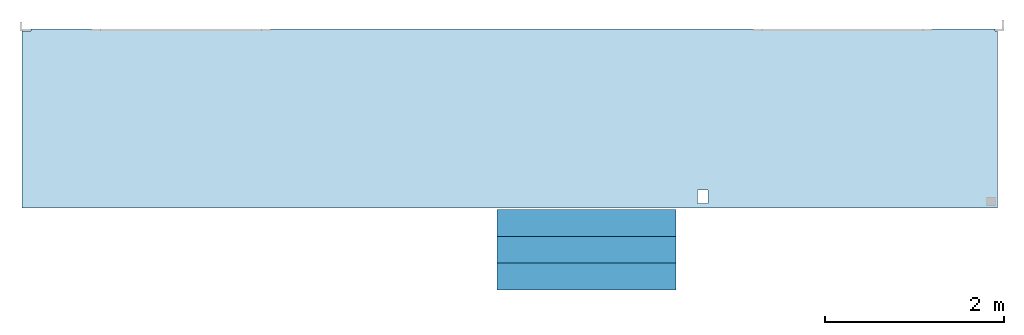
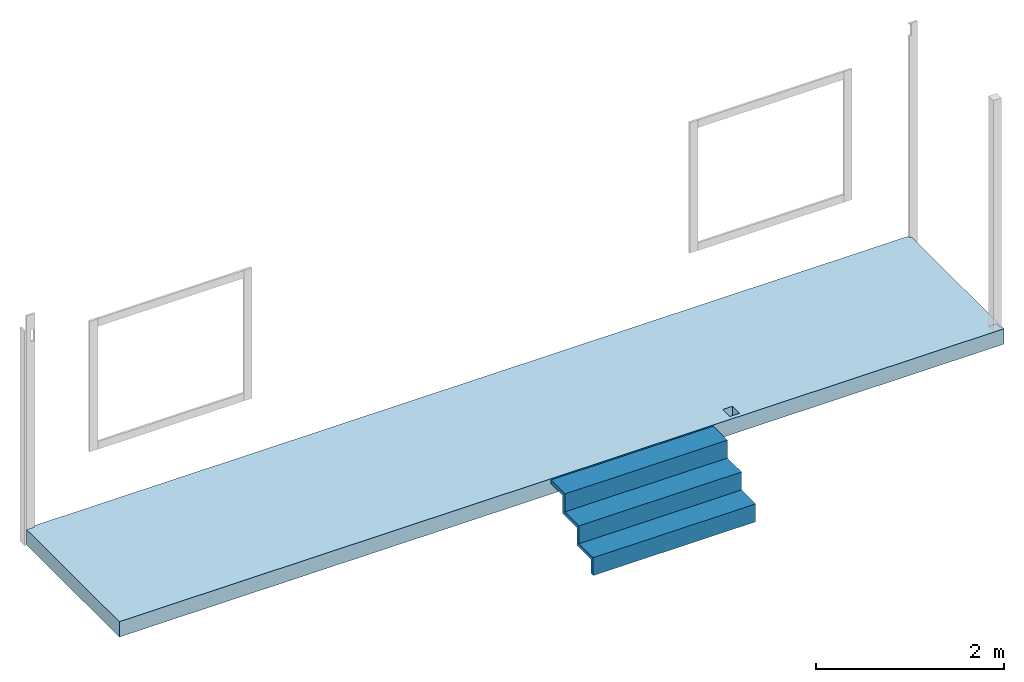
# One storey, part 2 of 2: 1 slab, 1 stair flight.
"""IFC4 building model written with IfcOpenShell, lengths in millimetres."""

from ifc_helpers import new_model, si_unit, derived_unit, frame, origin_with_axes, place, context, subcontext, project, spatial, polygons, source, transform, mapped, element, save


model = new_model("IFC4")

# Units and contexts
model_context = context("Model", 3, precision=1e-06, world=origin_with_axes())
body_context = subcontext(model_context, "Body", "Model", "MODEL_VIEW")
ifc_project = project(units=[si_unit("LENGTHUNIT", "METRE", prefix="MILLI"), si_unit("AREAUNIT", "SQUARE_METRE"), si_unit("VOLUMEUNIT", "CUBIC_METRE"), si_unit("MASSUNIT", "GRAM", prefix="KILO"), si_unit("ELECTRICVOLTAGEUNIT", "VOLT", prefix="KILO"), si_unit("THERMODYNAMICTEMPERATUREUNIT", "DEGREE_CELSIUS"), si_unit("PRESSUREUNIT", "PASCAL", prefix="MEGA"), si_unit("PLANEANGLEUNIT", "RADIAN"), derived_unit("THERMALCONDUCTANCEUNIT", [(si_unit("POWERUNIT", "WATT"), 1), (si_unit("LENGTHUNIT", "METRE"), -1), (si_unit("THERMODYNAMICTEMPERATUREUNIT", "KELVIN"), -1)]), derived_unit("MASSDENSITYUNIT", [(si_unit("MASSUNIT", "GRAM", prefix="KILO"), 1), (si_unit("VOLUMEUNIT", "CUBIC_METRE"), -1)])], contexts=[model_context])

# Site, building, storey
site_placement = place(None, origin_with_axes())
site = spatial("IfcSite", under=ifc_project, at=site_placement, CompositionType="ELEMENT")
building_placement = place(site_placement, origin_with_axes())
building = spatial("IfcBuilding", under=site, at=building_placement, CompositionType="ELEMENT")
storey_placement = place(building_placement, origin_with_axes())
storey = spatial("IfcBuildingStorey", under=building, at=storey_placement, Name="Фасады", CompositionType="ELEMENT", Elevation=0.0)

# Slab
shared_shape_1 = source(origin_with_axes(), body_context, "Body", "Tessellation", [
    polygons([(-49.99999999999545, -75.00000000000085, -200.0), (50.00000000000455, -75.00000000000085, -200.0), (50.00000000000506, -50.000000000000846, -200.0), (10819.999999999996, -49.99999999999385, -200.0), (10819.999999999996, -75.00000000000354, -200.0), (10845.000000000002, -75.00000000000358, -200.0), (10845.000000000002, -2049.9999999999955, -200.0), (-49.99999999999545, -2050.0000000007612, -200.0), (7615.0000000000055, -1850.0000000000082, -200.0), (7495.0000000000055, -1850.0000000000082, -200.0), (7495.0000000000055, -2000.0000000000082, -200.0), (7615.0000000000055, -2000.0000000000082, -200.0), (50.00000000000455, -75.00000000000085, 0.0), (-49.99999999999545, -75.00000000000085, 0.0), (-49.99999999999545, -2050.0000000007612, 0.0), (10845.000000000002, -2049.9999999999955, 0.0), (10845.000000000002, -75.00000000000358, 0.0), (10819.999999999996, -75.00000000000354, -2.8e-14), (10819.999999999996, -49.99999999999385, 0.0), (50.00000000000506, -50.000000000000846, 0.0), (10724.999999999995, -2029.9999999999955, 0.0), (10724.999999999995, -1929.9999999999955, 0.0), (10824.999999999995, -1929.9999999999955, 0.0), (10824.999999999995, -2029.9999999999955, 0.0), (7495.0000000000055, -1850.0000000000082, 0.0), (7615.0000000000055, -1850.0000000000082, 0.0), (7615.0000000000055, -2000.0000000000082, 0.0), (7495.0000000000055, -2000.0000000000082, 0.0), (10824.999999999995, -2029.9999999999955, -1.0), (10724.999999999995, -2029.9999999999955, -1.0), (10824.999999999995, -1929.9999999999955, -1.0), (10724.999999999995, -1929.9999999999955, -1.0)], [[[1, 2, 3, 4, 5, 6, 7, 8], [9, 10, 11, 12]], [[13, 14, 15, 16, 17, 18, 19, 20], [21, 22, 23, 24], [25, 26, 27, 28]], [[3, 20, 19, 4]], [[6, 17, 16, 7]], [[14, 1, 8, 15]], [[4, 19, 18, 5]], [[17, 6, 5, 18]], [[20, 3, 2, 13]], [[1, 14, 13, 2]], [[27, 26, 9, 12]], [[25, 28, 11, 10]], [[28, 27, 12, 11]], [[26, 25, 10, 9]], [[21, 24, 29, 30]], [[24, 23, 31, 29]], [[23, 22, 32, 31]], [[22, 21, 30, 32]], [[8, 7, 16, 15]], [[30, 29, 31, 32]]], closed=True),
])
slab_placement = place(storey_placement, frame((-49.99999999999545, -50.00000000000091, -200.0), z_axis=(0.0, 0.0, 1.0), x_axis=(0.0, -1.0, 0.0)))
element("IfcSlab", 1, at=slab_placement, inside=storey, Name="Перекрытие: 200,00 мм", PredefinedType="FLOOR", context=body_context, shape_type="MappedRepresentation", body=[
    mapped(shared_shape_1, transform((-50.00000000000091, 49.99999999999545, 200.0), x_axis=(0.0, 1.0, 0.0), y_axis=(-1.0, 0.0, 0.0), z_axis=(0.0, 0.0, 1.0), scale=1.0)),
])

# Stair flight
shared_shape_2 = source(origin_with_axes(), body_context, "Body", "Tessellation", [
    polygons([(1000.0000000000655, -133.87066185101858, 183.33333333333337), (1000.0000000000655, 166.12933814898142, 183.33333333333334), (1000.0000000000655, 166.12933814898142, 416.66666666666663), (1000.0000000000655, 466.12933814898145, 416.6666666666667), (1000.0000000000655, 466.12933814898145, 650.0), (1000.0000000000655, 716.1293381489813, 650.0), (1000.0000000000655, 716.1293381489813, 700.0), (1000.0000000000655, 416.12933814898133, 700.0), (1000.0000000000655, 416.12933814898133, 466.66666666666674), (1000.0000000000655, 116.12933814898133, 466.6666666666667), (1000.0000000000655, 116.12933814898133, 233.33333333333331), (1000.0000000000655, -183.87066185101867, 233.33333333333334), (1000.0000000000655, -183.87066185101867, 0.0), (1000.0000000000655, -133.87066185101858, 0.0), (-999.9999999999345, 166.12933814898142, 183.33333333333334), (-999.9999999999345, -133.87066185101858, 183.33333333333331), (-999.9999999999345, -133.87066185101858, 0.0), (-999.9999999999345, -183.87066185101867, 0.0), (-999.9999999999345, -183.87066185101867, 233.33333333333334), (-999.9999999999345, 116.1293381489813, 233.33333333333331), (-999.9999999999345, 116.12933814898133, 466.6666666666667), (-999.9999999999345, 416.12933814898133, 466.66666666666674), (-999.9999999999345, 416.12933814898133, 700.0), (-999.9999999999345, 716.1293381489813, 700.0), (-999.9999999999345, 716.1293381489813, 650.0), (-999.9999999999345, 466.12933814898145, 650.0), (-999.9999999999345, 466.12933814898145, 416.6666666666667), (-999.9999999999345, 166.12933814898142, 416.66666666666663)], [[[1, 2, 3, 4, 5, 6, 7, 8, 9, 10, 11, 12, 13, 14]], [[15, 16, 17, 18, 19, 20, 21, 22, 23, 24, 25, 26, 27, 28]], [[3, 28, 27, 4]], [[9, 22, 21, 10]], [[22, 9, 8, 23]], [[1, 16, 15, 2]], [[28, 3, 2, 15]], [[26, 5, 4, 27]], [[5, 26, 25, 6]], [[6, 25, 24, 7]], [[8, 7, 24, 23]], [[20, 11, 10, 21]], [[11, 20, 19, 12]], [[18, 13, 12, 19]], [[17, 14, 13, 18]], [[16, 1, 14, 17]]], closed=True),
])
stair_flight_placement = place(storey_placement, frame((6256.227828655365, -2967.7048427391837, -701.0), z_axis=(0.0, 0.0, 1.0), x_axis=(1.0, 0.0, 0.0)))
element("IfcStairFlight", 2, at=stair_flight_placement, inside=storey, Name="Лестница: 3 шт x 300,00 мм x 233,33 мм", PredefinedType="NOTDEFINED", context=body_context, shape_type="MappedRepresentation", body=[
    mapped(shared_shape_2, transform((-6.5484e-11, 183.87066185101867, 0.0), x_axis=(1.0, 0.0, 0.0), y_axis=(0.0, 1.0, 0.0), z_axis=(0.0, 0.0, 1.0), scale=1.0)),
])

save(model, "model.ifc")
